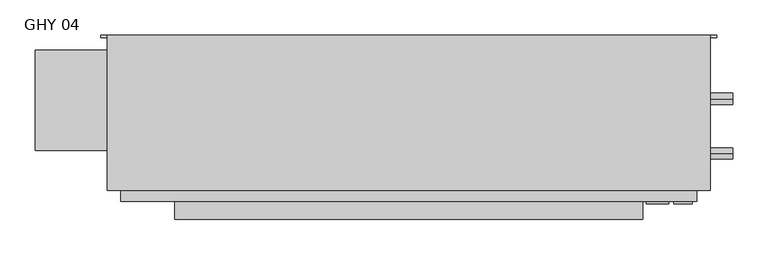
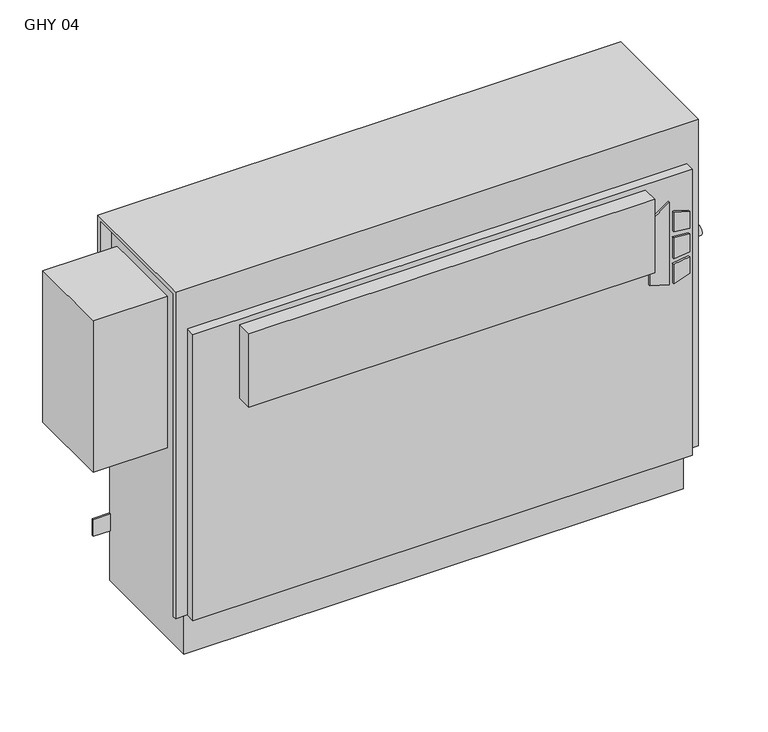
"""IFC4 building model written with IfcOpenShell, lengths in millimetres: proxy geometry, Vertical_Fan_Coil_Unit_-_GHY_-_IEC_-_2-Pipe_FS-FR_RH_2022 : GHY 04."""

from ifc_helpers import new_model, si_unit, point, frame, frame_2d, origin, place, context, project, spatial, polyline, circle_curve, trimmed, segment, composite_curve, outline, extrude, source, transform, mapped, element, save
from ifc_brep_helpers import plane_surface, revolved_surface, advanced_brep


def ghy_04_f5d8f7c7(model_context):
    return source(origin(), model_context, "Body", "SolidModel", [
        extrude(outline(polyline([(391.6086829, 487.4368862), (381.6606126, 519.6102728), (523.831537, 519.6102728), (500.8095309, 487.4368862), (391.6086829, 487.4368862)])), frame((0.0, 6.35, 0.0), z_axis=(0.0, 1.0, 0.0), x_axis=(0.0, 0.0, 1.0)), (0.0, 0.0, 1.0), 3.175),
        extrude(outline(polyline([(470.6079683, 526.3686058), (467.4055757, 552.45), (496.6344168, 552.45), (504.6988318, 526.3686058), (470.6079683, 526.3686058)])), frame((0.0, 6.35, 0.0), z_axis=(0.0, 1.0, 0.0), x_axis=(0.0, 0.0, 1.0)), (0.0, 0.0, 1.0), 3.175),
        extrude(outline(polyline([(418.7444414, 552.45), (415.0789404, 526.3686058), (381.6606126, 526.3686058), (390.2948498, 552.45), (418.7444414, 552.45)])), frame((0.0, 6.35, 0.0), z_axis=(0.0, 1.0, 0.0), x_axis=(0.0, 0.0, 1.0)), (0.0, 0.0, 1.0), 3.175),
        extrude(outline(polyline([(458.0596028, 552.45), (460.3414292, 526.3686058), (424.4038806, 526.3686058), (427.1451456, 552.45), (458.0596028, 552.45)])), frame((0.0, 6.35, 0.0), z_axis=(0.0, 1.0, 0.0), x_axis=(0.0, 0.0, 1.0)), (0.0, 0.0, 1.0), 3.175),
        extrude(outline(polyline([(482.6, -15.875), (-177.8, -15.875), (-177.8, 9.525), (482.6, 9.525), (482.6, -15.875)])), frame((0.0, 0.0, 428.625), z_axis=(0.0, 0.0, 1.0), x_axis=(1.0, 0.0, 0.0)), (0.0, 0.0, 1.0), 127.0),
        extrude(outline(composite_curve([segment(trimmed(circle_curve(frame_2d((77.597, 401.574)), 7.9375), [point((77.597, 393.6365))], [point((77.597, 409.5115))], False, "CARTESIAN"), True, "CONTINUOUS"), segment(trimmed(circle_curve(frame_2d((77.597, 401.574)), 7.9375), [point((77.597, 409.5115))], [point((77.597, 393.6365))], False, "CARTESIAN"), True, "CONTINUOUS")], self_intersect=False)), frame((558.8, 0.0, 0.0), z_axis=(1.0, 0.0, 0.0), x_axis=(0.0, 1.0, 0.0)), (0.0, 0.0, 1.0), 50.8),
        extrude(outline(composite_curve([segment(trimmed(circle_curve(frame_2d((154.559, 540.512)), 7.9375), [point((154.559, 532.5745))], [point((154.559, 548.4495))], False, "CARTESIAN"), True, "CONTINUOUS"), segment(trimmed(circle_curve(frame_2d((154.559, 540.512)), 7.9375), [point((154.559, 548.4495))], [point((154.559, 532.5745))], False, "CARTESIAN"), True, "CONTINUOUS")], self_intersect=False)), frame((558.8, 0.0, 0.0), z_axis=(1.0, 0.0, 0.0), x_axis=(0.0, 1.0, 0.0)), (0.0, 0.0, 1.0), 50.8),
        extrude(outline(polyline([(-374.65, 223.266), (-254.0, 223.266), (-254.0, 81.534), (-374.65, 81.534), (-374.65, 223.266)])), frame((0.0, 0.0, 327.025), z_axis=(0.0, 0.0, 1.0), x_axis=(1.0, 0.0, 0.0)), (0.0, 0.0, 1.0), 260.35),
        advanced_brep(
        [(577.85, 244.475, 635.0), (-273.05, 244.475, 635.0), (-273.05, 25.4, 635.0), (577.85, 25.4, 635.0), (-254.0, 244.475, 0.0), (558.8, 244.475, 0.0), (558.8, 34.925, 0.0), (-254.0, 34.925, 0.0), (577.85, 244.475, 558.8), (558.8, 244.475, 558.8), (558.8, 244.475, 414.3375), (587.375, 244.475, 414.3375), (587.375, 244.475, 385.7625), (558.8, 244.475, 385.7625), (558.8, 244.475, 287.3375), (587.375, 244.475, 287.3375), (587.375, 244.475, 258.7625), (558.8, 244.475, 258.7625), (558.8, 244.475, 141.2875), (587.375, 244.475, 141.2875), (587.375, 244.475, 112.7125), (558.8, 244.475, 112.7125), (-254.0, 244.475, 87.3125), (-282.575, 244.475, 87.3125), (-282.575, 244.475, 115.8875), (-254.0, 244.475, 115.8875), (-254.0, 244.475, 258.7625), (-282.575, 244.475, 258.7625), (-282.575, 244.475, 287.3375), (-254.0, 244.475, 287.3375), (-254.0, 244.475, 385.7625), (-282.575, 244.475, 385.7625), (-282.575, 244.475, 414.3375), (-254.0, 244.475, 414.3375), (-254.0, 244.475, 558.8), (-273.05, 244.475, 558.8), (577.0626, 244.475, 127.0), (565.9374, 244.475, 127.0), (577.0626, 244.475, 273.05), (565.9374, 244.475, 273.05), (-261.1374, 244.475, 273.05), (-272.2626, 244.475, 273.05), (577.0626, 244.475, 400.05), (565.9374, 244.475, 400.05), (-261.1374, 244.475, 400.05), (-272.2626, 244.475, 400.05), (-273.05, 238.125, 558.8), (-273.05, 238.125, 628.65), (-273.05, 31.75, 628.65), (-273.05, 31.75, 73.025), (-273.05, 25.4, 73.025), (558.8, 9.525, 565.15), (-254.0, 9.525, 565.15), (-254.0, 9.525, 73.025), (558.8, 9.525, 73.025), (577.85, 25.4, 73.025), (577.85, 31.75, 73.025), (577.85, 31.75, 628.65), (577.85, 238.125, 628.65), (577.85, 238.125, 558.8), (-254.0, 25.4, 73.025), (-254.0, 25.4, 565.15), (558.8, 25.4, 565.15), (558.8, 25.4, 73.025), (-254.0, 31.75, 73.025), (-254.0, 34.925, 73.025), (558.8, 34.925, 73.025), (558.8, 31.75, 73.025), (558.8, 241.3, 112.7125), (558.8, 241.3, 141.2875), (558.8, 241.3, 258.7625), (558.8, 241.3, 287.3375), (558.8, 241.3, 385.7625), (558.8, 241.3, 414.3375), (558.8, 238.125, 558.8), (558.8, 238.125, 628.65), (558.8, 31.75, 628.65), (-254.0, 31.75, 628.65), (-254.0, 238.125, 628.65), (-254.0, 238.125, 558.8), (-254.0, 241.3, 414.3375), (-254.0, 241.3, 385.7625), (-254.0, 241.3, 287.3375), (-254.0, 241.3, 258.7625), (-254.0, 241.3, 115.8875), (-254.0, 241.3, 87.3125), (587.375, 241.3, 112.7125), (587.375, 241.3, 141.2875), (565.9374, 241.3, 127.0), (577.0626, 241.3, 127.0), (587.375, 241.3, 258.7625), (587.375, 241.3, 287.3375), (565.9374, 241.3, 273.05), (577.0626, 241.3, 273.05), (587.375, 241.3, 385.7625), (587.375, 241.3, 414.3375), (565.9374, 241.3, 400.05), (577.0626, 241.3, 400.05), (-282.575, 241.3, 115.8875), (-282.575, 241.3, 87.3125), (-282.575, 241.3, 287.3375), (-282.575, 241.3, 258.7625), (-272.2626, 241.3, 273.05), (-261.1374, 241.3, 273.05), (-282.575, 241.3, 414.3375), (-282.575, 241.3, 385.7625), (-272.2626, 241.3, 400.05), (-261.1374, 241.3, 400.05)],
        [
            (0, 1),
            (1, 2),
            (2, 3),
            (3, 0),
            (4, 5),
            (5, 6),
            (6, 7),
            (7, 4),
            (0, 8),
            (8, 9),
            (9, 10),
            (10, 11),
            (11, 12),
            (12, 13),
            (13, 14),
            (14, 15),
            (15, 16),
            (16, 17),
            (17, 18),
            (18, 19),
            (19, 20),
            (20, 21),
            (21, 5),
            (4, 22),
            (22, 23),
            (23, 24),
            (24, 25),
            (25, 26),
            (26, 27),
            (27, 28),
            (28, 29),
            (29, 30),
            (30, 31),
            (31, 32),
            (32, 33),
            (33, 34),
            (34, 35),
            (35, 1),
            (36, 37, circle_curve(frame((571.5, 244.475, 127.0), z_axis=(0.0, -1.0, 0.0), x_axis=(-1.0, 0.0, 0.0)), 5.5626)),
            (37, 36, circle_curve(frame((571.5, 244.475, 127.0), z_axis=(0.0, -1.0, 0.0), x_axis=(-1.0, 0.0, 0.0)), 5.5626)),
            (38, 39, circle_curve(frame((571.5, 244.475, 273.05), z_axis=(0.0, -1.0, 0.0), x_axis=(-1.0, 0.0, 0.0)), 5.5626)),
            (39, 38, circle_curve(frame((571.5, 244.475, 273.05), z_axis=(0.0, -1.0, 0.0), x_axis=(-1.0, 0.0, 0.0)), 5.5626)),
            (40, 41, circle_curve(frame((-266.7, 244.475, 273.05), z_axis=(0.0, -1.0, 0.0), x_axis=(-1.0, 0.0, 0.0)), 5.5626)),
            (41, 40, circle_curve(frame((-266.7, 244.475, 273.05), z_axis=(0.0, -1.0, 0.0), x_axis=(-1.0, 0.0, 0.0)), 5.5626)),
            (42, 43, circle_curve(frame((571.5, 244.475, 400.05), z_axis=(0.0, -1.0, 0.0), x_axis=(-1.0, 0.0, 0.0)), 5.5626)),
            (43, 42, circle_curve(frame((571.5, 244.475, 400.05), z_axis=(0.0, -1.0, 0.0), x_axis=(-1.0, 0.0, 0.0)), 5.5626)),
            (44, 45, circle_curve(frame((-266.7, 244.475, 400.05), z_axis=(0.0, -1.0, 0.0), x_axis=(-1.0, 0.0, 0.0)), 5.5626)),
            (45, 44, circle_curve(frame((-266.7, 244.475, 400.05), z_axis=(0.0, -1.0, 0.0), x_axis=(-1.0, 0.0, 0.0)), 5.5626)),
            (35, 46),
            (46, 47),
            (47, 48),
            (48, 49),
            (49, 50),
            (50, 2),
            (51, 52),
            (52, 53),
            (53, 54),
            (54, 51),
            (3, 55),
            (55, 56),
            (56, 57),
            (57, 58),
            (58, 59),
            (59, 8),
            (50, 60),
            (60, 61),
            (61, 62),
            (62, 63),
            (63, 55),
            (51, 62),
            (61, 52),
            (53, 60),
            (49, 64),
            (64, 65),
            (65, 66),
            (66, 67),
            (67, 56),
            (63, 54),
            (6, 66),
            (65, 7),
            (21, 68),
            (68, 69),
            (69, 18),
            (17, 70),
            (70, 71),
            (71, 14),
            (13, 72),
            (72, 73),
            (73, 10),
            (9, 74),
            (74, 75),
            (75, 76),
            (76, 67),
            (64, 77),
            (77, 78),
            (78, 79),
            (79, 34),
            (33, 80),
            (80, 81),
            (81, 30),
            (29, 82),
            (82, 83),
            (83, 26),
            (25, 84),
            (84, 85),
            (85, 22),
            (74, 59),
            (58, 75),
            (76, 57),
            (48, 77),
            (79, 46),
            (78, 47),
            (68, 86),
            (86, 87),
            (87, 69),
            (88, 89, circle_curve(frame((571.5, 241.3, 127.0), z_axis=(0.0, 1.0, 0.0), x_axis=(-1.0, 0.0, 0.0)), 5.5626)),
            (89, 88, circle_curve(frame((571.5, 241.3, 127.0), z_axis=(0.0, 1.0, 0.0), x_axis=(-1.0, 0.0, 0.0)), 5.5626)),
            (90, 91),
            (91, 71),
            (70, 90),
            (92, 93, circle_curve(frame((571.5, 241.3, 273.05), z_axis=(0.0, 1.0, 0.0), x_axis=(-1.0, 0.0, 0.0)), 5.5626)),
            (93, 92, circle_curve(frame((571.5, 241.3, 273.05), z_axis=(0.0, 1.0, 0.0), x_axis=(-1.0, 0.0, 0.0)), 5.5626)),
            (94, 95),
            (95, 73),
            (72, 94),
            (96, 97, circle_curve(frame((571.5, 241.3, 400.05), z_axis=(0.0, 1.0, 0.0), x_axis=(-1.0, 0.0, 0.0)), 5.5626)),
            (97, 96, circle_curve(frame((571.5, 241.3, 400.05), z_axis=(0.0, 1.0, 0.0), x_axis=(-1.0, 0.0, 0.0)), 5.5626)),
            (98, 99),
            (99, 85),
            (84, 98),
            (82, 100),
            (100, 101),
            (101, 83),
            (102, 103, circle_curve(frame((-266.7, 241.3, 273.05), z_axis=(0.0, 1.0, 0.0), x_axis=(-1.0, 0.0, 0.0)), 5.5626)),
            (103, 102, circle_curve(frame((-266.7, 241.3, 273.05), z_axis=(0.0, 1.0, 0.0), x_axis=(-1.0, 0.0, 0.0)), 5.5626)),
            (104, 105),
            (105, 81),
            (80, 104),
            (106, 107, circle_curve(frame((-266.7, 241.3, 400.05), z_axis=(0.0, 1.0, 0.0), x_axis=(-1.0, 0.0, 0.0)), 5.5626)),
            (107, 106, circle_curve(frame((-266.7, 241.3, 400.05), z_axis=(0.0, 1.0, 0.0), x_axis=(-1.0, 0.0, 0.0)), 5.5626)),
            (87, 19),
            (86, 20),
            (16, 90),
            (91, 15),
            (12, 94),
            (95, 11),
            (24, 98),
            (99, 23),
            (101, 27),
            (100, 28),
            (32, 104),
            (105, 31),
            (88, 37),
            (36, 89),
            (92, 39),
            (38, 93),
            (102, 41),
            (40, 103),
            (96, 43),
            (42, 97),
            (106, 45),
            (44, 107),
        ],
        [
            plane_surface(frame((-273.05, 244.475, 635.0), z_axis=(0.0, 0.0, 1.0), x_axis=(-1.0, 0.0, 0.0))),
            plane_surface(frame((-273.05, 244.475, 0.0), z_axis=(0.0, 0.0, -1.0), x_axis=(1.0, 0.0, 0.0))),
            plane_surface(frame((577.85, 244.475, 635.0), z_axis=(0.0, 1.0, 0.0), x_axis=(0.0, 0.0, -1.0))),
            plane_surface(frame((-273.05, 244.475, 635.0), z_axis=(-1.0, 0.0, 0.0), x_axis=(0.0, 0.0, -1.0))),
            plane_surface(frame((-273.05, 9.525, 635.0), z_axis=(0.0, -1.0, 0.0), x_axis=(0.0, 0.0, -1.0))),
            plane_surface(frame((577.85, 9.525, 635.0), z_axis=(1.0, 0.0, 0.0), x_axis=(0.0, 0.0, -1.0))),
            plane_surface(frame((-400.05, 25.4, 635.0), z_axis=(0.0, -1.0, 0.0), x_axis=(1.0, 0.0, 0.0))),
            plane_surface(frame((-400.05, 25.4, 565.15), z_axis=(0.0, 0.0, 1.0), x_axis=(1.0, 0.0, 0.0))),
            plane_surface(frame((-273.05, 9.525, 73.025), z_axis=(0.0, 0.0, -1.0), x_axis=(1.0, 0.0, 0.0))),
            plane_surface(frame((-273.05, 34.925, 73.025), z_axis=(0.0, -1.0, 0.0), x_axis=(1.0, 0.0, 0.0))),
            plane_surface(frame((558.8, 25.4, 73.025), z_axis=(1.0, 0.0, 0.0), x_axis=(0.0, -1.0, 0.0))),
            plane_surface(frame((-254.0, 25.4, 565.15), z_axis=(-1.0, 0.0, 0.0), x_axis=(0.0, -1.0, 0.0))),
            plane_surface(frame((558.8, 244.475, 0.0), z_axis=(1.0, 0.0, 0.0), x_axis=(0.0, -1.0, 0.0))),
            plane_surface(frame((-254.0, 244.475, 73.025), z_axis=(-1.0, 0.0, 0.0), x_axis=(0.0, -1.0, 0.0))),
            plane_surface(frame((558.8, 238.125, 628.65), z_axis=(0.0, -1.0, 0.0), x_axis=(1.0, 0.0, 0.0))),
            plane_surface(frame((558.8, 238.125, 558.8), z_axis=(0.0, 0.0, -1.0), x_axis=(1.0, 0.0, 0.0))),
            plane_surface(frame((558.8, 31.75, 73.025), z_axis=(0.0, 1.0, 0.0), x_axis=(1.0, 0.0, 0.0))),
            plane_surface(frame((558.8, 31.75, 628.65), z_axis=(0.0, 0.0, -1.0), x_axis=(1.0, 0.0, 0.0))),
            plane_surface(frame((-254.0, 31.75, 628.65), z_axis=(0.0, 1.0, 0.0), x_axis=(-1.0, 0.0, 0.0))),
            plane_surface(frame((-254.0, 244.475, 558.8), z_axis=(0.0, 0.0, -1.0), x_axis=(-1.0, 0.0, 0.0))),
            plane_surface(frame((-254.0, 238.125, 558.8), z_axis=(0.0, -1.0, 0.0), x_axis=(-1.0, 0.0, 0.0))),
            plane_surface(frame((-254.0, 238.125, 628.65), z_axis=(0.0, 0.0, -1.0), x_axis=(-1.0, 0.0, 0.0))),
            plane_surface(frame((587.375, 241.3, 141.2875), z_axis=(0.0, -1.0, 0.0), x_axis=(-1.0, 0.0, 0.0))),
            plane_surface(frame((558.8, 244.475, 141.2875), z_axis=(0.0, 0.0, 1.0), x_axis=(0.0, -1.0, 0.0))),
            plane_surface(frame((587.375, 244.475, 141.2875), z_axis=(1.0, 0.0, 0.0), x_axis=(0.0, -1.0, 0.0))),
            plane_surface(frame((587.375, 244.475, 112.7125), z_axis=(0.0, 0.0, -1.0), x_axis=(0.0, -1.0, 0.0))),
            plane_surface(frame((587.375, 244.475, 258.7625), z_axis=(0.0, 0.0, -1.0), x_axis=(0.0, -1.0, 0.0))),
            plane_surface(frame((558.8, 244.475, 287.3375), z_axis=(0.0, 0.0, 1.0), x_axis=(0.0, -1.0, 0.0))),
            plane_surface(frame((587.375, 244.475, 287.3375), z_axis=(1.0, 0.0, 0.0), x_axis=(0.0, -1.0, 0.0))),
            plane_surface(frame((587.375, 244.475, 385.7625), z_axis=(0.0, 0.0, -1.0), x_axis=(0.0, -1.0, 0.0))),
            plane_surface(frame((558.8, 244.475, 414.3375), z_axis=(0.0, 0.0, 1.0), x_axis=(0.0, -1.0, 0.0))),
            plane_surface(frame((587.375, 244.475, 414.3375), z_axis=(1.0, 0.0, 0.0), x_axis=(0.0, -1.0, 0.0))),
            plane_surface(frame((-282.575, 244.475, 115.8875), z_axis=(0.0, 0.0, 1.0), x_axis=(0.0, -1.0, 0.0))),
            plane_surface(frame((-254.0, 244.475, 87.3125), z_axis=(0.0, 0.0, -1.0), x_axis=(0.0, -1.0, 0.0))),
            plane_surface(frame((-282.575, 244.475, 87.3125), z_axis=(-1.0, 0.0, 0.0), x_axis=(0.0, -1.0, 0.0))),
            plane_surface(frame((-254.0, 244.475, 258.7625), z_axis=(0.0, 0.0, -1.0), x_axis=(0.0, -1.0, 0.0))),
            plane_surface(frame((-282.575, 244.475, 258.7625), z_axis=(-1.0, 0.0, 0.0), x_axis=(0.0, -1.0, 0.0))),
            plane_surface(frame((-282.575, 244.475, 287.3375), z_axis=(0.0, 0.0, 1.0), x_axis=(0.0, -1.0, 0.0))),
            plane_surface(frame((-282.575, 244.475, 414.3375), z_axis=(0.0, 0.0, 1.0), x_axis=(0.0, -1.0, 0.0))),
            plane_surface(frame((-254.0, 244.475, 385.7625), z_axis=(0.0, 0.0, -1.0), x_axis=(0.0, -1.0, 0.0))),
            plane_surface(frame((-282.575, 244.475, 385.7625), z_axis=(-1.0, 0.0, 0.0), x_axis=(0.0, -1.0, 0.0))),
            revolved_surface(polyline([(565.9374, 241.3, 127.0), (565.9374, 244.475, 127.0)]), (571.5, 244.475, 127.0), (0.0, -1.0, 0.0)),
            revolved_surface(polyline([(565.9374, 241.3, 273.05), (565.9374, 244.475, 273.05)]), (571.5, 244.475, 273.05), (0.0, -1.0, 0.0)),
            revolved_surface(polyline([(-272.26259999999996, 241.3, 273.05), (-272.26259999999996, 244.475, 273.05)]), (-266.7, 244.475, 273.05), (0.0, -1.0, 0.0)),
            revolved_surface(polyline([(565.9374, 241.3, 400.05), (565.9374, 244.475, 400.05)]), (571.5, 244.475, 400.05), (0.0, -1.0, 0.0)),
            revolved_surface(polyline([(-272.26259999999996, 241.3, 400.05), (-272.26259999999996, 244.475, 400.05)]), (-266.7, 244.475, 400.05), (0.0, -1.0, 0.0)),
        ],
        [
            (0, [[1, 2, 3, 4]]),
            (1, [[5, 6, 7, 8]]),
            (2, [[-1, 9, 10, 11, 12, 13, 14, 15, 16, 17, 18, 19, 20, 21, 22, 23, -5, 24, 25, 26, 27, 28, 29, 30, 31, 32, 33, 34, 35, 36, 37, 38], [39, 40], [41, 42], [43, 44], [45, 46], [47, 48]]),
            (3, [[-2, -38, 49, 50, 51, 52, 53, 54]]),
            (4, [[55, 56, 57, 58]]),
            (5, [[-4, 59, 60, 61, 62, 63, 64, -9]]),
            (6, [[-3, -54, 65, 66, 67, 68, 69, -59]]),
            (7, [[-55, 70, -67, 71]]),
            (8, [[-57, 72, -65, -53, 73, 74, 75, 76, 77, -60, -69, 78]]),
            (9, [[-7, 79, -75, 80]]),
            (10, [[-68, -70, -58, -78]]),
            (11, [[-66, -72, -56, -71]]),
            (12, [[-6, -23, 81, 82, 83, -19, 84, 85, 86, -15, 87, 88, 89, -11, 90, 91, 92, 93, -76, -79]]),
            (13, [[-8, -80, -74, 94, 95, 96, 97, -36, 98, 99, 100, -32, 101, 102, 103, -28, 104, 105, 106, -24]]),
            (14, [[-91, 107, -63, 108]]),
            (15, [[-90, -10, -64, -107]]),
            (16, [[-93, 109, -61, -77]]),
            (17, [[-92, -108, -62, -109]]),
            (18, [[-94, -73, -52, 110]]),
            (19, [[-97, 111, -49, -37]]),
            (20, [[-96, 112, -50, -111]]),
            (21, [[-95, -110, -51, -112]]),
            (22, [[113, 114, 115, -82], [116, 117]]),
            (22, [[118, 119, -85, 120], [121, 122]]),
            (22, [[123, 124, -88, 125], [126, 127]]),
            (22, [[128, 129, -105, 130]]),
            (22, [[131, 132, 133, -102], [134, 135]]),
            (22, [[136, 137, -99, 138], [139, 140]]),
            (23, [[-115, 141, -20, -83]]),
            (24, [[-114, 142, -21, -141]]),
            (25, [[-113, -81, -22, -142]]),
            (26, [[-120, -84, -18, 143]]),
            (27, [[-119, 144, -16, -86]]),
            (28, [[-118, -143, -17, -144]]),
            (29, [[-125, -87, -14, 145]]),
            (30, [[-124, 146, -12, -89]]),
            (31, [[-123, -145, -13, -146]]),
            (32, [[-130, -104, -27, 147]]),
            (33, [[-129, 148, -25, -106]]),
            (34, [[-128, -147, -26, -148]]),
            (35, [[-133, 149, -29, -103]]),
            (36, [[-132, 150, -30, -149]]),
            (37, [[-131, -101, -31, -150]]),
            (38, [[-138, -98, -35, 151]]),
            (39, [[-137, 152, -33, -100]]),
            (40, [[-136, -151, -34, -152]]),
            (41, [[153, -39, 154, -116]]),
            (41, [[-153, -117, -154, -40]]),
            (42, [[155, -41, 156, -121]]),
            (42, [[-155, -122, -156, -42]]),
            (43, [[157, -43, 158, -134]]),
            (43, [[-157, -135, -158, -44]]),
            (44, [[159, -45, 160, -126]]),
            (44, [[-159, -127, -160, -46]]),
            (45, [[161, -47, 162, -139]]),
            (45, [[-161, -140, -162, -48]]),
        ],
    ),
    ])


if __name__ == "__main__":
    model = new_model("IFC4")
    model_context = context("Model", 3, world=origin())
    ifc_project = project(units=[si_unit("LENGTHUNIT", "METRE", prefix="MILLI")], contexts=[model_context])
    site = spatial("IfcSite", under=ifc_project)
    building = spatial("IfcBuilding", under=site)
    placement = place(None, origin())
    ghy_04_shape = ghy_04_f5d8f7c7(model_context)
    element("IfcBuildingElementProxy", 1, Name="Vertical_Fan_Coil_Unit_-_GHY_-_IEC_-_2-Pipe_FS-FR_RH_2022 : GHY 04", ObjectType="Vertical_Fan_Coil_Unit_-_GHY_-_IEC_-_2-Pipe_FS-FR_RH_2022 : GHY 04", at=placement, inside=building, context=model_context, shape_type="MappedRepresentation", body=[
        mapped(ghy_04_shape, transform((0.0, 0.0, 0.0), x_axis=(1.0, 0.0, 0.0), y_axis=(0.0, 1.0, 0.0), z_axis=(0.0, 0.0, 1.0))),
    ])
    save(model, "model.ifc")
